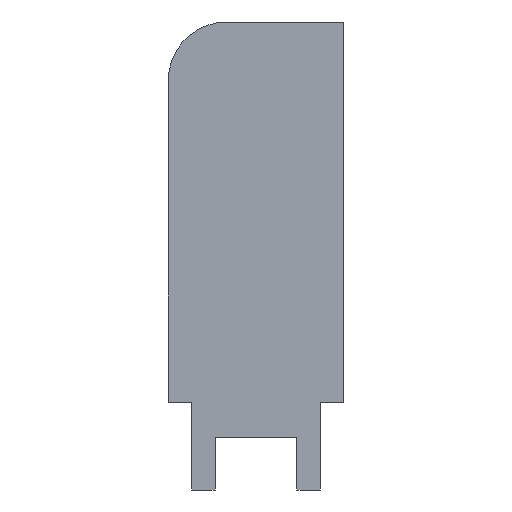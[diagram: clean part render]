
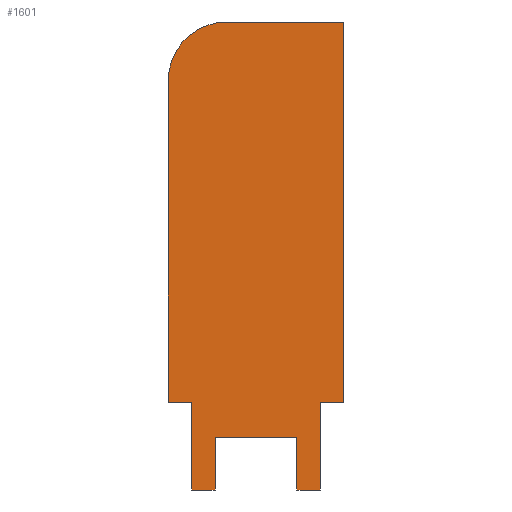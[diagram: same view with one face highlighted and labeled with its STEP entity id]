
A CAD part, left-side view. The second image highlights one B-rep face of the part: STEP entity #1601.
In plain terms, the highlighted planar face has unit normal (-1, 0, 0).
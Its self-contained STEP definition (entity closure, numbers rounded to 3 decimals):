
#51=PLANE('',#1710);
#148=FACE_OUTER_BOUND('',#239,.T.);
#239=EDGE_LOOP('',(#1445,#1446,#1447,#1448,#1449,#1450,#1451,#1452,#1453,
#1454,#1455,#1456,#1457));
#262=CIRCLE('',#1682,5.);
#416=LINE('',#6028,#526);
#419=LINE('',#6034,#529);
#422=LINE('',#6040,#532);
#425=LINE('',#6046,#535);
#428=LINE('',#6052,#538);
#431=LINE('',#6058,#541);
#434=LINE('',#6064,#544);
#437=LINE('',#6070,#547);
#440=LINE('',#6076,#550);
#449=LINE('',#6092,#559);
#482=LINE('',#6162,#592);
#483=LINE('',#6164,#593);
#526=VECTOR('',#1892,10.);
#529=VECTOR('',#1897,10.);
#532=VECTOR('',#1902,10.);
#535=VECTOR('',#1907,10.);
#538=VECTOR('',#1912,10.);
#541=VECTOR('',#1917,10.);
#544=VECTOR('',#1922,10.);
#547=VECTOR('',#1927,10.);
#550=VECTOR('',#1932,10.);
#559=VECTOR('',#1945,10.);
#592=VECTOR('',#2008,10.);
#593=VECTOR('',#2011,10.);
#706=VERTEX_POINT('',#6018);
#707=VERTEX_POINT('',#6019);
#710=VERTEX_POINT('',#6027);
#712=VERTEX_POINT('',#6033);
#714=VERTEX_POINT('',#6039);
#716=VERTEX_POINT('',#6045);
#718=VERTEX_POINT('',#6051);
#720=VERTEX_POINT('',#6057);
#722=VERTEX_POINT('',#6063);
#724=VERTEX_POINT('',#6069);
#726=VERTEX_POINT('',#6075);
#731=VERTEX_POINT('',#6090);
#753=VERTEX_POINT('',#6160);
#920=EDGE_CURVE('',#706,#707,#262,.T.);
#924=EDGE_CURVE('',#710,#706,#416,.T.);
#927=EDGE_CURVE('',#712,#710,#419,.T.);
#930=EDGE_CURVE('',#714,#712,#422,.T.);
#933=EDGE_CURVE('',#716,#714,#425,.T.);
#936=EDGE_CURVE('',#718,#716,#428,.T.);
#939=EDGE_CURVE('',#720,#718,#431,.T.);
#942=EDGE_CURVE('',#722,#720,#434,.T.);
#945=EDGE_CURVE('',#724,#722,#437,.T.);
#948=EDGE_CURVE('',#726,#724,#440,.T.);
#957=EDGE_CURVE('',#731,#726,#449,.T.);
#992=EDGE_CURVE('',#753,#707,#482,.T.);
#993=EDGE_CURVE('',#731,#753,#483,.T.);
#1445=ORIENTED_EDGE('',*,*,#993,.T.);
#1446=ORIENTED_EDGE('',*,*,#992,.T.);
#1447=ORIENTED_EDGE('',*,*,#920,.F.);
#1448=ORIENTED_EDGE('',*,*,#924,.F.);
#1449=ORIENTED_EDGE('',*,*,#927,.F.);
#1450=ORIENTED_EDGE('',*,*,#930,.F.);
#1451=ORIENTED_EDGE('',*,*,#933,.F.);
#1452=ORIENTED_EDGE('',*,*,#936,.F.);
#1453=ORIENTED_EDGE('',*,*,#939,.F.);
#1454=ORIENTED_EDGE('',*,*,#942,.F.);
#1455=ORIENTED_EDGE('',*,*,#945,.F.);
#1456=ORIENTED_EDGE('',*,*,#948,.F.);
#1457=ORIENTED_EDGE('',*,*,#957,.F.);
#1601=ADVANCED_FACE('',(#148),#51,.T.);
#1682=AXIS2_PLACEMENT_3D('',#6020,#1884,#1885);
#1710=AXIS2_PLACEMENT_3D('',#6163,#2009,#2010);
#1884=DIRECTION('center_axis',(1.,0.,0.));
#1885=DIRECTION('ref_axis',(0.,1.,0.));
#1892=DIRECTION('',(0.,0.,1.));
#1897=DIRECTION('',(0.,1.,0.));
#1902=DIRECTION('',(0.,0.,1.));
#1907=DIRECTION('',(0.,1.,0.));
#1912=DIRECTION('',(0.,0.,-1.));
#1917=DIRECTION('',(0.,1.,0.));
#1922=DIRECTION('',(0.,0.,1.));
#1927=DIRECTION('',(0.,1.,0.));
#1932=DIRECTION('',(0.,0.,-1.));
#1945=DIRECTION('',(0.,1.,0.));
#2008=DIRECTION('',(0.,1.,0.));
#2009=DIRECTION('center_axis',(-1.,0.,0.));
#2010=DIRECTION('ref_axis',(0.,0.,1.));
#2011=DIRECTION('',(0.,0.,1.));
#6018=CARTESIAN_POINT('',(-20.8,15.,27.5));
#6019=CARTESIAN_POINT('',(-20.8,10.,32.5));
#6020=CARTESIAN_POINT('Origin',(-20.8,10.,27.5));
#6027=CARTESIAN_POINT('',(-20.8,15.,0.));
#6028=CARTESIAN_POINT('',(-20.8,15.,0.));
#6033=CARTESIAN_POINT('',(-20.8,13.,0.));
#6034=CARTESIAN_POINT('',(-20.8,0.,0.));
#6039=CARTESIAN_POINT('',(-20.8,13.,-7.5));
#6040=CARTESIAN_POINT('',(-20.8,13.,-7.5));
#6045=CARTESIAN_POINT('',(-20.8,11.,-7.5));
#6046=CARTESIAN_POINT('',(-20.8,11.,-7.5));
#6051=CARTESIAN_POINT('',(-20.8,11.,-3.));
#6052=CARTESIAN_POINT('',(-20.8,11.,-3.));
#6057=CARTESIAN_POINT('',(-20.8,4.,-3.));
#6058=CARTESIAN_POINT('',(-20.8,4.,-3.));
#6063=CARTESIAN_POINT('',(-20.8,4.,-7.5));
#6064=CARTESIAN_POINT('',(-20.8,4.,-7.5));
#6069=CARTESIAN_POINT('',(-20.8,2.,-7.5));
#6070=CARTESIAN_POINT('',(-20.8,2.,-7.5));
#6075=CARTESIAN_POINT('',(-20.8,2.,0.));
#6076=CARTESIAN_POINT('',(-20.8,2.,0.));
#6090=CARTESIAN_POINT('',(-20.8,0.,0.));
#6092=CARTESIAN_POINT('',(-20.8,0.,0.));
#6160=CARTESIAN_POINT('',(-20.8,0.,32.5));
#6162=CARTESIAN_POINT('',(-20.8,0.,32.5));
#6163=CARTESIAN_POINT('Origin',(-20.8,0.,0.));
#6164=CARTESIAN_POINT('',(-20.8,0.,0.));
